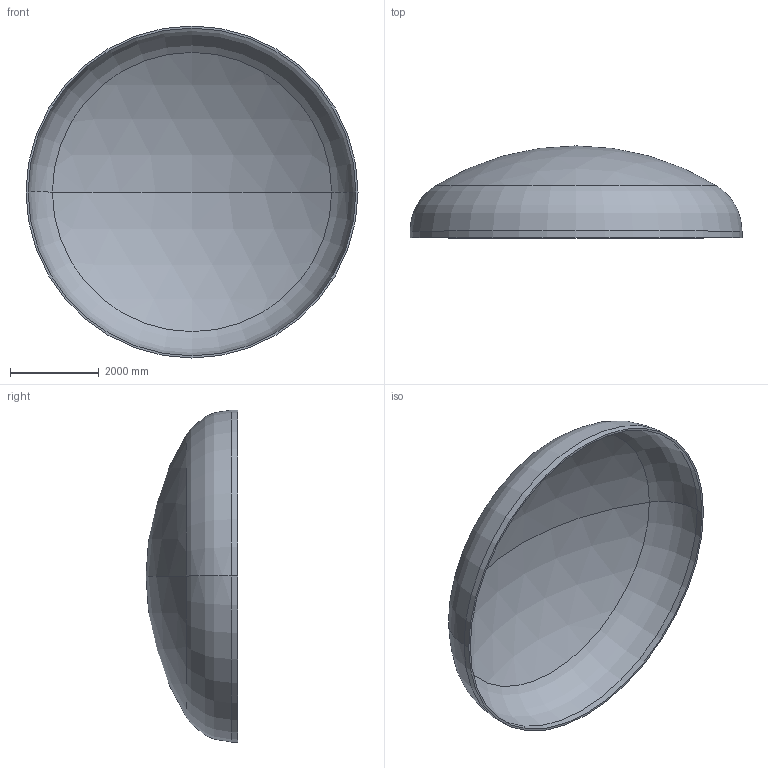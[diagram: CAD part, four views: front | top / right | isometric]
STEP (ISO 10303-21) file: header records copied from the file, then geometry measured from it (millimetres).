
FILE_DESCRIPTION (( 'STEP AP203' ), '1' );
FILE_NAME ('DIN 28013 Korbbogenform_-_Boden DIN 28013 - 7500 x 150 - I - s=48.step', '2016-07-04T10:54:28', ( '' ), ( '' ), 'SwSTEP 2.0', 'SolidWorks 2013', '' );
FILE_SCHEMA (( 'CONFIG_CONTROL_DESIGN' ));
Length unit declared in the file: millimetre
Products named in the file (1): DIN 28013 Korbbogenform_-_Boden DIN 28013 - 7500 x 150 - I - s=48
Bounding box: 7500 x 2076.49 x 7500 mm (x, y, z)
Volume: 3080832416.5 mm3; surface area: 129496528.2 mm2
Topology: 1 solids, 1 shells, 13 faces, 24 edges, 14 vertices
Faces by surface type: torus 4, cylinder 4, sphere 4, plane 1
Entity records: 407 total; most frequent: DIRECTION 72, CARTESIAN_POINT 52, ORIENTED_EDGE 48, AXIS2_PLACEMENT_3D 34, EDGE_CURVE 24, CIRCLE 20, EDGE_LOOP 14, VERTEX_POINT 14
